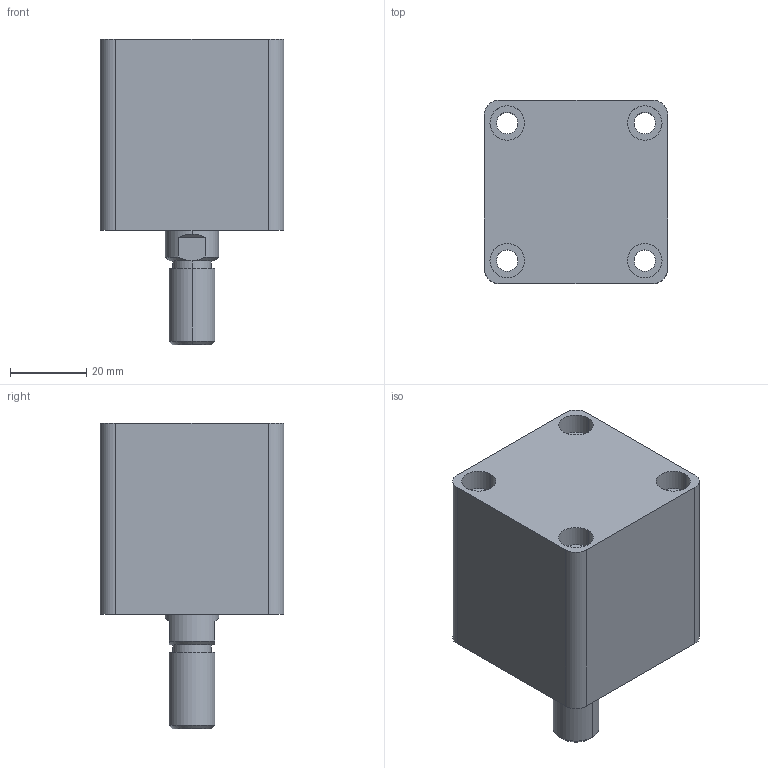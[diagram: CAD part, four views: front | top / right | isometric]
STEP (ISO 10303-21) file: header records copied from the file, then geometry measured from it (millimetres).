
FILE_DESCRIPTION (( 'STEP AP203' ), '1' );
FILE_NAME ('HTB-SD25-5W.STEP', '2019-10-07T05:56:18', ( '微软用户' ), ( '微软中国' ), 'SwSTEP 2.0', 'SolidWorks 2012', '' );
FILE_SCHEMA (( 'CONFIG_CONTROL_DESIGN' ));
Length unit declared in the file: millimetre
Products named in the file (3): HTB-SD25-5W活塞杆; HTB-SD25-5掛极; HTB-SD25-5W
Assembly tree (2 placements, depth 2):
  HTB-SD25-5W
    HTB-SD25-5掛极
    HTB-SD25-5W活塞杆
Bounding box: 48 x 48 x 80 mm (x, y, z)
Volume: 108737 mm3; surface area: 25792.1 mm2
Topology: 2 solids, 2 shells, 87 faces, 188 edges, 122 vertices
Faces by surface type: cylinder 44, plane 29, cone 8, torus 6
Entity records: 2759 total; most frequent: DIRECTION 476, CARTESIAN_POINT 446, ORIENTED_EDGE 376, AXIS2_PLACEMENT_3D 204, EDGE_CURVE 188, VERTEX_POINT 122, CIRCLE 112, EDGE_LOOP 112
